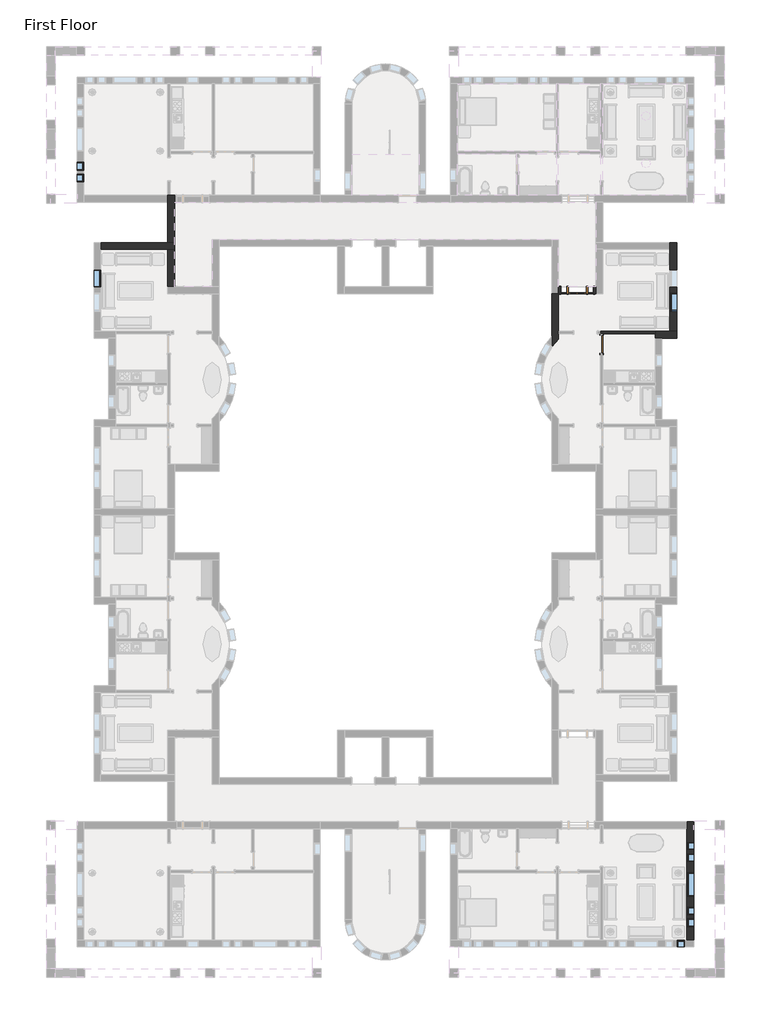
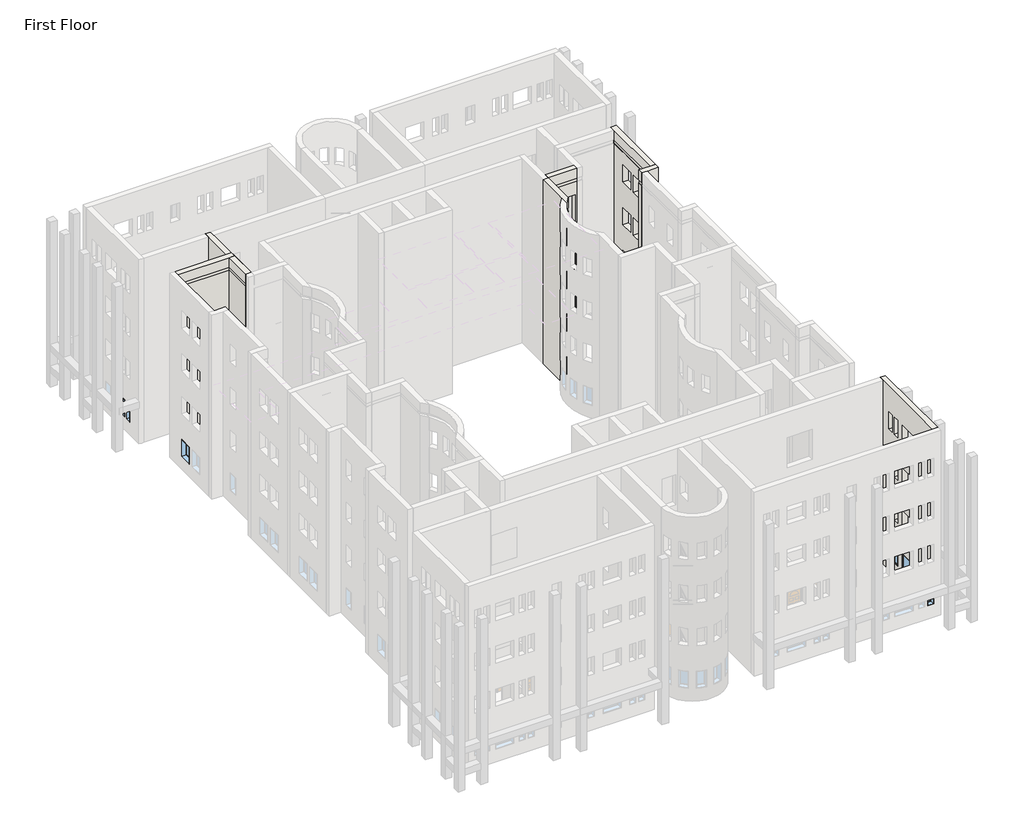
# One storey, part 13 of 24: 10 windows, 9 walls, 2 doors.
"""IFC4 building model written with IfcOpenShell, lengths in millimetres."""

from ifc_helpers import new_model, si_unit, frame, origin, place, context, project, spatial, polyline, circle_curve, outline, extrude, faceted_brep, transform, mapped, element, save
from ifc_brep_helpers import plane_surface, revolved_surface, advanced_brep
from components import door_a3eb833a, door_ffdb1193, window_da97879f, window_d61ef850, window_15c49d37, window_0e2fc6ce, window_d89bf842

model = new_model("IFC4")

# Units and contexts
model_context = context("Model", 3, world=origin())
ifc_project = project(units=[si_unit("LENGTHUNIT", "METRE", prefix="MILLI")], contexts=[model_context])

# Site, building, storey
site = spatial("IfcSite", under=ifc_project)
building = spatial("IfcBuilding", under=site)
storey = spatial("IfcBuildingStorey", under=building, Name="First Floor", Elevation=0.0)

# Doors
placement = place(None, origin())
door_shape = door_a3eb833a(model_context)
element("IfcDoor", 1, ObjectType="Single-Flush : 36\" x 84\"", at=placement, inside=storey, context=model_context, shape_type="MappedRepresentation", body=[
    mapped(door_shape, transform((-3773.4589563, -3157.0558133, 0.0), x_axis=(0.0, 1.0, 0.0), y_axis=(-1.0, 0.0, 0.0), z_axis=(0.0, 0.0, 1.0))),
])
door_2_shape = door_ffdb1193(model_context)
element("IfcDoor", 2, ObjectType="Single-Raised Panel with Sidelights : 36\" x 84\"", at=placement, inside=storey, context=model_context, shape_type="MappedRepresentation", body=[
    mapped(door_2_shape, transform((-5029.1714563, -374.1683133, 0.0), x_axis=(-1.0, 0.0, 0.0), y_axis=(0.0, -1.0, 0.0), z_axis=(0.0, 0.0, 1.0))),
])

# Walls
element("IfcWall", 3, ObjectType="Exterior - Brick on Mtl. Stud", at=placement, inside=storey, context=model_context, shape_type="Brep", body=[
    faceted_brep([(-25807.9589563, -197.9558133, 0.0), (-25807.9589563, 4174.0191867, 0.0), (-25807.9589563, 4526.4441867, 0.0), (-25807.9589563, 4526.4441867, 13106.4), (-25807.9589563, 4174.0191867, 13106.4), (-25807.9589563, -197.9558133, 13106.4), (-26160.3839563, -197.9558133, 0.0), (-26160.3839563, -197.9558133, 13106.4), (-26160.3839563, 4526.4441867, 13106.4), (-26160.3839563, 4526.4441867, 0.0)], [[[0, 1, 2, 3, 4, 5]], [[6, 7, 8, 9]], [[2, 1, 0, 6, 9]], [[5, 4, 3, 8, 7]], [[3, 2, 9, 8]], [[0, 5, 7, 6]]]),
])
element("IfcWall", 4, ObjectType="Exterior - Brick on Mtl. Stud", at=placement, inside=storey, context=model_context, shape_type="Brep", body=[
    faceted_brep([(-5995.9589563, -197.9558133, 13106.4), (-4062.3839563, -197.9558133, 13106.4), (-4062.3839563, -197.9558133, 0.0), (-4190.9714563, -197.9558133, 0.0), (-4190.9714563, -197.9558133, 2133.6), (-5867.3714563, -197.9558133, 2133.6), (-5867.3714563, -197.9558133, 0.0), (-5995.9589563, -197.9558133, 0.0), (-5867.3714563, -197.9558133, 6096.0), (-4190.9714563, -197.9558133, 6096.0), (-4190.9714563, -197.9558133, 8229.6), (-5867.3714563, -197.9558133, 8229.6), (-5867.3714563, -197.9558133, 3048.0), (-4190.9714563, -197.9558133, 3048.0), (-4190.9714563, -197.9558133, 5181.6), (-5867.3714563, -197.9558133, 5181.6), (-5867.3714563, -197.9558133, 9144.0), (-4190.9714563, -197.9558133, 9144.0), (-4190.9714563, -197.9558133, 11277.6), (-5867.3714563, -197.9558133, 11277.6), (-4062.3839563, -550.3808133, 13106.4), (-5995.9589563, -550.3808133, 13106.4), (-5995.9589563, -550.3808133, 12420.6), (-4062.3839563, -550.3808133, 12420.6), (-5867.3714563, -550.3808133, 0.0), (-5867.3714563, -550.3808133, 2133.6), (-4190.9714563, -550.3808133, 2133.6), (-4190.9714563, -550.3808133, 0.0), (-4062.3839563, -550.3808133, 0.0), (-4062.3839563, -550.3808133, 12192.0), (-5995.9589563, -550.3808133, 12192.0), (-5995.9589563, -550.3808133, 0.0), (-4190.9714563, -550.3808133, 6096.0), (-5867.3714563, -550.3808133, 6096.0), (-5867.3714563, -550.3808133, 8229.6), (-4190.9714563, -550.3808133, 8229.6), (-4190.9714563, -550.3808133, 3048.0), (-5867.3714563, -550.3808133, 3048.0), (-5867.3714563, -550.3808133, 5181.6), (-4190.9714563, -550.3808133, 5181.6), (-4190.9714563, -550.3808133, 9144.0), (-5867.3714563, -550.3808133, 9144.0), (-5867.3714563, -550.3808133, 11277.6), (-4190.9714563, -550.3808133, 11277.6), (-4062.3839563, -537.6808133, 12420.6), (-4062.3839563, -537.6808133, 12192.0), (-5995.9589563, -537.6808133, 12192.0), (-5995.9589563, -537.6808133, 12420.6)], [[[0, 1, 2, 3, 4, 5, 6, 7], [8, 9, 10, 11], [12, 13, 14, 15], [16, 17, 18, 19]], [[20, 21, 22, 23]], [[24, 25, 26, 27, 28, 29, 30, 31], [32, 33, 34, 35], [36, 37, 38, 39], [40, 41, 42, 43]], [[2, 28, 27, 3]], [[31, 7, 6, 24]], [[1, 0, 21, 20]], [[2, 1, 20, 23, 44, 45, 29, 28]], [[0, 7, 31, 30, 46, 47, 22, 21]], [[25, 24, 6, 5]], [[26, 25, 5, 4]], [[27, 26, 4, 3]], [[33, 32, 9, 8]], [[34, 33, 8, 11]], [[35, 34, 11, 10]], [[32, 35, 10, 9]], [[37, 36, 13, 12]], [[38, 37, 12, 15]], [[39, 38, 15, 14]], [[36, 39, 14, 13]], [[41, 40, 17, 16]], [[42, 41, 16, 19]], [[43, 42, 19, 18]], [[40, 43, 18, 17]], [[45, 46, 30, 29]], [[47, 44, 23, 22]], [[46, 45, 44, 47]]]),
])
element("IfcWall", 5, ObjectType="Exterior - Brick on Mtl. Stud", at=placement, inside=storey, context=model_context, shape_type="AdvancedBrep", body=[
    advanced_brep(
    [(-6348.3839563, -550.3808133, 0.0), (-6348.3839563, -2741.7830793, 0.0), (-6348.3839563, -3299.6776635, 0.0), (-6348.3839563, -3299.6776635, 914.4), (-6348.3839563, -3250.3894156, 914.4), (-6348.3839563, -3250.3894156, 2133.6), (-6348.3839563, -3299.6776635, 2133.6), (-6348.3839563, -3299.6776635, 3962.4), (-6348.3839563, -3250.3894156, 3962.4), (-6348.3839563, -3250.3894156, 5181.6), (-6348.3839563, -3299.6776635, 5181.6), (-6348.3839563, -3299.6776635, 7010.4), (-6348.3839563, -3250.3894156, 7010.4), (-6348.3839563, -3250.3894156, 8229.6), (-6348.3839563, -3299.6776635, 8229.6), (-6348.3839563, -3299.6776635, 10058.4), (-6348.3839563, -3250.3894156, 10058.4), (-6348.3839563, -3250.3894156, 11277.6), (-6348.3839563, -3299.6776635, 11277.6), (-6348.3839563, -3299.6776635, 12192.0), (-6348.3839563, -2991.1907425, 12192.0), (-6348.3839563, -2991.1907425, 12420.6), (-6348.3839563, -3299.6776635, 12420.6), (-6348.3839563, -3299.6776635, 13106.4), (-6348.3839563, -2741.7830793, 13106.4), (-6348.3839563, -550.3808133, 13106.4), (-5995.9589563, -2885.7839656, 0.0), (-5995.9589563, -2610.9558133, 0.0), (-5995.9589563, -2483.9558133, 0.0), (-5995.9589563, -550.3808133, 0.0), (-5995.9589563, -550.3808133, 12192.0), (-5995.9589563, -2483.9558133, 12192.0), (-5995.9589563, -2610.9558133, 12192.0), (-5995.9589563, -2885.7839656, 12192.0), (-5995.9589563, -550.3808133, 13106.4), (-5995.9589563, -2885.7839656, 13106.4), (-5995.9589563, -2885.7839656, 12420.6), (-5995.9589563, -550.3808133, 12420.6), (-6342.9143656, -3291.8888446, 11277.6), (-6342.9143656, -3291.8888446, 10058.4), (-6342.9143656, -3291.8888446, 8229.6), (-6342.9143656, -3291.8888446, 7010.4), (-6342.9143656, -3291.8888446, 5181.6), (-6342.9143656, -3291.8888446, 3962.4), (-6342.9143656, -3291.8888446, 2133.6), (-6342.9143656, -3291.8888446, 914.4), (-6008.6589563, -550.3808133, 12420.6), (-6008.6589563, -550.3808133, 12192.0), (-6326.3830671, -3262.9631051, 2133.6), (-6326.3830671, -3262.9631051, 914.4), (-6326.3830671, -3262.9631051, 11277.6), (-6326.3830671, -3262.9631051, 10058.4), (-6326.3830671, -3262.9631051, 5181.6), (-6326.3830671, -3262.9631051, 3962.4), (-6326.3830671, -3262.9631051, 8229.6), (-6326.3830671, -3262.9631051, 7010.4), (-6008.6589563, -2642.86294, 12192.0), (-6008.6589563, -2642.86294, 12420.6)],
    [
        (0, 1),
        (1, 2),
        (2, 3),
        (3, 4),
        (4, 5),
        (5, 6),
        (6, 7),
        (7, 8),
        (8, 9),
        (9, 10),
        (10, 11),
        (11, 12),
        (12, 13),
        (13, 14),
        (14, 15),
        (15, 16),
        (16, 17),
        (17, 18),
        (18, 19),
        (19, 20),
        (20, 21),
        (21, 22),
        (22, 23),
        (23, 24),
        (24, 25),
        (25, 0),
        (26, 27),
        (27, 28),
        (28, 29),
        (29, 30),
        (30, 31),
        (31, 32),
        (32, 33),
        (33, 26),
        (34, 35),
        (35, 36),
        (36, 37),
        (37, 34),
        (0, 29),
        (26, 2, circle_curve(frame((-3995.4640713, -4946.1683133, 0.0), z_axis=(0.0, 0.0, 1.0), x_axis=(0.0, 1.0, 0.0)), 2871.7875)),
        (23, 35, circle_curve(frame((-3995.4640713, -4946.1683133, 13106.4), z_axis=(0.0, 0.0, -1.0), x_axis=(0.0, 1.0, 0.0)), 2871.7875)),
        (34, 25),
        (33, 19, circle_curve(frame((-3995.4640713, -4946.1683133, 12192.0), z_axis=(0.0, 0.0, 1.0), x_axis=(0.0, 1.0, 0.0)), 2871.7875)),
        (18, 38, circle_curve(frame((-3995.4640713, -4946.1683133, 11277.6), z_axis=(0.0, 0.0, -1.0), x_axis=(0.0, 1.0, 0.0)), 2871.7875)),
        (38, 39),
        (39, 15, circle_curve(frame((-3995.4640713, -4946.1683133, 10058.4), z_axis=(0.0, 0.0, 1.0), x_axis=(0.0, 1.0, 0.0)), 2871.7875)),
        (14, 40, circle_curve(frame((-3995.4640713, -4946.1683133, 8229.6), z_axis=(0.0, 0.0, -1.0), x_axis=(0.0, 1.0, 0.0)), 2871.7875)),
        (40, 41),
        (41, 11, circle_curve(frame((-3995.4640713, -4946.1683133, 7010.4), z_axis=(0.0, 0.0, 1.0), x_axis=(0.0, 1.0, 0.0)), 2871.7875)),
        (10, 42, circle_curve(frame((-3995.4640713, -4946.1683133, 5181.6), z_axis=(0.0, 0.0, -1.0), x_axis=(0.0, 1.0, 0.0)), 2871.7875)),
        (42, 43),
        (43, 7, circle_curve(frame((-3995.4640713, -4946.1683133, 3962.4), z_axis=(0.0, 0.0, 1.0), x_axis=(0.0, 1.0, 0.0)), 2871.7875)),
        (6, 44, circle_curve(frame((-3995.4640713, -4946.1683133, 2133.6), z_axis=(0.0, 0.0, -1.0), x_axis=(0.0, 1.0, 0.0)), 2871.7875)),
        (44, 45),
        (45, 3, circle_curve(frame((-3995.4640713, -4946.1683133, 914.4), z_axis=(0.0, 0.0, 1.0), x_axis=(0.0, 1.0, 0.0)), 2871.7875)),
        (22, 36, circle_curve(frame((-3995.4640713, -4946.1683133, 12420.6), z_axis=(0.0, 0.0, -1.0), x_axis=(0.0, 1.0, 0.0)), 2871.7875)),
        (37, 46),
        (46, 47),
        (47, 30),
        (48, 49),
        (49, 45),
        (44, 48),
        (49, 4),
        (48, 5),
        (50, 51),
        (51, 39),
        (38, 50),
        (51, 16),
        (50, 17),
        (52, 53),
        (53, 43),
        (42, 52),
        (53, 8),
        (52, 9),
        (54, 55),
        (55, 41),
        (40, 54),
        (55, 12),
        (54, 13),
        (47, 56),
        (56, 20, circle_curve(frame((-3995.4640713, -4946.1683133, 12192.0), z_axis=(0.0, 0.0, 1.0), x_axis=(0.0, -1.0, 0.0)), 3059.1125)),
        (21, 57, circle_curve(frame((-3995.4640713, -4946.1683133, 12420.6), z_axis=(0.0, 0.0, -1.0), x_axis=(0.0, -1.0, 0.0)), 3059.1125)),
        (57, 46),
        (57, 56),
    ],
    [
        plane_surface(frame((-6348.3839563, -374.1683133, 0.0), z_axis=(-1.0, 0.0, 0.0), x_axis=(0.0, -1.0, 0.0))),
        plane_surface(frame((-5995.9589563, -374.1683133, 0.0), z_axis=(1.0, 0.0, 0.0), x_axis=(0.0, 1.0, 0.0))),
        plane_surface(frame((-6348.3839563, -374.1683133, 0.0), z_axis=(0.0, 0.0, -1.0), x_axis=(1.0, 0.0, 0.0))),
        plane_surface(frame((-6348.3839563, -2812.5683133, 13106.4), z_axis=(0.0, 0.0, 1.0), x_axis=(1.0, 0.0, 0.0))),
        revolved_surface(polyline([(-3995.4640713, -2074.3808132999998, 0.0), (-3995.4640713, -2074.3808132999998, 12192.0)]), (-3995.4640713, -4946.1683133, 0.0), (0.0, 0.0, -1.0)),
        revolved_surface(polyline([(-3995.4640713, -2074.3808132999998, 12420.6), (-3995.4640713, -2074.3808132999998, 13106.4)]), (-3995.4640713, -4946.1683133, 0.0), (0.0, 0.0, -1.0)),
        plane_surface(frame((-3886.1714563, -550.3808133, 0.0), z_axis=(0.0, 1.0, 0.0), x_axis=(1.0, 0.0, 0.0))),
        plane_surface(frame((-6628.8611513, -3792.2259591, 2133.6), z_axis=(-0.8682133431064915, 0.49619108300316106, 0.0), x_axis=(0.0, 0.0, -1.0))),
        plane_surface(frame((-6628.8611513, -3792.2259591, 914.4), z_axis=(0.0, 0.0, 1.0), x_axis=(-0.8682133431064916, 0.4961910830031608, 0.0))),
        plane_surface(frame((-6326.3830671, -3262.9631051, 914.4), z_axis=(-0.4961910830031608, -0.8682133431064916, 0.0), x_axis=(-0.8682133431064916, 0.4961910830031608, 0.0))),
        plane_surface(frame((-6326.3830671, -3262.9631051, 2133.6), z_axis=(0.0, 0.0, -1.0), x_axis=(-0.8682133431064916, 0.4961910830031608, 0.0))),
        plane_surface(frame((-6628.8611513, -3792.2259591, 11277.6), z_axis=(-0.8682133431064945, 0.4961910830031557, 0.0), x_axis=(0.0, 0.0, -1.0))),
        plane_surface(frame((-6628.8611513, -3792.2259591, 10058.4), z_axis=(0.0, 0.0, 1.0), x_axis=(-0.8682133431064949, 0.49619108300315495, 0.0))),
        plane_surface(frame((-6326.3830671, -3262.9631051, 10058.4), z_axis=(-0.4961910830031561, -0.8682133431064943, 0.0), x_axis=(-0.8682133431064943, 0.4961910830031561, 0.0))),
        plane_surface(frame((-6326.3830671, -3262.9631051, 11277.6), z_axis=(0.0, 0.0, -1.0000000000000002), x_axis=(-0.8682133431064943, 0.4961910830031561, 0.0))),
        plane_surface(frame((-6628.8611513, -3792.2259591, 5181.6), z_axis=(-0.8682133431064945, 0.4961910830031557, 0.0), x_axis=(0.0, 0.0, -1.0))),
        plane_surface(frame((-6628.8611513, -3792.2259591, 3962.4), z_axis=(0.0, 0.0, 1.0), x_axis=(-0.8682133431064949, 0.49619108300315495, 0.0))),
        plane_surface(frame((-6326.3830671, -3262.9631051, 3962.4), z_axis=(-0.4961910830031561, -0.8682133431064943, 0.0), x_axis=(-0.8682133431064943, 0.4961910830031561, 0.0))),
        plane_surface(frame((-6326.3830671, -3262.9631051, 5181.6), z_axis=(0.0, 0.0, -1.0000000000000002), x_axis=(-0.8682133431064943, 0.4961910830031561, 0.0))),
        plane_surface(frame((-6628.8611513, -3792.2259591, 8229.6), z_axis=(-0.8682133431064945, 0.4961910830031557, 0.0), x_axis=(0.0, 0.0, -1.0))),
        plane_surface(frame((-6628.8611513, -3792.2259591, 7010.4), z_axis=(0.0, 0.0, 1.0), x_axis=(-0.8682133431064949, 0.49619108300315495, 0.0))),
        plane_surface(frame((-6326.3830671, -3262.9631051, 7010.4), z_axis=(-0.4961910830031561, -0.8682133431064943, 0.0), x_axis=(-0.8682133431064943, 0.4961910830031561, 0.0))),
        plane_surface(frame((-6326.3830671, -3262.9631051, 8229.6), z_axis=(0.0, 0.0, -1.0000000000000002), x_axis=(-0.8682133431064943, 0.4961910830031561, 0.0))),
        plane_surface(frame((-239.6839563, -11640.6558133, 12192.0), z_axis=(0.0, 0.0, 1.0), x_axis=(1.0, 0.0, 0.0))),
        plane_surface(frame((-239.6839563, -11640.6558133, 12420.6), z_axis=(0.0, 0.0, -1.0), x_axis=(1.0, 0.0, 0.0))),
        plane_surface(frame((-6008.6589563, -537.6808133, 12192.0), z_axis=(1.0, 0.0, 0.0), x_axis=(0.0, -1.0, 0.0))),
        revolved_surface(polyline([(-3995.4640713, -8005.2808133, 12420.6), (-3995.4640713, -8005.2808133, 12192.0)]), (-3995.4640713, -4946.1683133, 12192.0), (0.0, 0.0, 1.0)),
    ],
    [
        (0, [[1, 2, 3, 4, 5, 6, 7, 8, 9, 10, 11, 12, 13, 14, 15, 16, 17, 18, 19, 20, 21, 22, 23, 24, 25, 26]]),
        (1, [[27, 28, 29, 30, 31, 32, 33, 34]]),
        (1, [[35, 36, 37, 38]]),
        (2, [[-2, -1, 39, -29, -28, -27, 40]]),
        (3, [[-25, -24, 41, -35, 42]]),
        (4, [[-40, -34, 43, -19, 44, 45, 46, -15, 47, 48, 49, -11, 50, 51, 52, -7, 53, 54, 55, -3]]),
        (5, [[-41, -23, 56, -36]]),
        (6, [[-26, -42, -38, 57, 58, 59, -30, -39]]),
        (7, [[60, 61, -54, 62]]),
        (8, [[63, -4, -55, -61]]),
        (9, [[-60, 64, -5, -63]]),
        (10, [[-64, -62, -53, -6]]),
        (11, [[65, 66, -45, 67]]),
        (12, [[68, -16, -46, -66]]),
        (13, [[-65, 69, -17, -68]]),
        (14, [[-69, -67, -44, -18]]),
        (15, [[70, 71, -51, 72]]),
        (16, [[73, -8, -52, -71]]),
        (17, [[-70, 74, -9, -73]]),
        (18, [[-74, -72, -50, -10]]),
        (19, [[75, 76, -48, 77]]),
        (20, [[78, -12, -49, -76]]),
        (21, [[-75, 79, -13, -78]]),
        (22, [[-79, -77, -47, -14]]),
        (23, [[80, 81, -20, -43, -33, -32, -31, -59]]),
        (24, [[82, 83, -57, -37, -56, -22]]),
        (25, [[84, -80, -58, -83]]),
        (26, [[-84, -82, -21, -81]]),
    ],
),
])
element("IfcWall", 6, ObjectType="Exterior - Brick on Mtl. Stud", at=placement, inside=storey, context=model_context, shape_type="Brep", body=[
    faceted_brep([(-1014.3839563, -2836.3808133, 0.0), (-661.9589563, -2836.3808133, 0.0), (100.0410437, -2836.3808133, 0.0), (100.0410437, -2836.3808133, 13106.4), (-661.9589563, -2836.3808133, 13106.4), (-1014.3839563, -2836.3808133, 13106.4), (-1014.3839563, -2836.3808133, 12420.6), (-1001.6839563, -2836.3808133, 12420.6), (-1001.6839563, -2836.3808133, 12192.0), (-1014.3839563, -2836.3808133, 12192.0), (100.0410437, -2483.9558133, 0.0), (-252.3839563, -2483.9558133, 0.0), (-1014.3839563, -2483.9558133, 0.0), (-1014.3839563, -2483.9558133, 3048.0), (-1014.3839563, -2483.9558133, 12192.0), (-252.3839563, -2483.9558133, 12192.0), (-239.6839563, -2483.9558133, 12192.0), (-239.6839563, -2483.9558133, 12420.6), (-252.3839563, -2483.9558133, 12420.6), (-1014.3839563, -2483.9558133, 12420.6), (-1014.3839563, -2483.9558133, 13106.4), (-252.3839563, -2483.9558133, 13106.4), (100.0410437, -2483.9558133, 13106.4), (-1014.3839563, -2610.9558133, 0.0), (-1001.6839563, -2496.6558133, 12192.0), (-239.6839563, -2496.6558133, 12192.0), (-239.6839563, -2496.6558133, 12420.6), (-1001.6839563, -2496.6558133, 12420.6)], [[[0, 1, 2, 3, 4, 5, 6, 7, 8, 9]], [[10, 11, 12, 13, 14, 15, 16, 17, 18, 19, 20, 21, 22]], [[2, 1, 0, 23, 12, 11, 10]], [[5, 4, 3, 22, 21, 20]], [[12, 23, 0, 9, 14, 13]], [[5, 20, 19, 6]], [[3, 2, 10, 22]], [[24, 25, 16, 15, 14, 9, 8]], [[26, 27, 7, 6, 19, 18, 17]], [[27, 24, 8, 7]], [[25, 24, 27, 26]], [[25, 26, 17, 16]]]),
])
element("IfcWall", 7, ObjectType="Exterior - Brick on Mtl. Stud", at=placement, inside=storey, context=model_context, shape_type="Brep", body=[
    faceted_brep([(100.0410437, -2483.9558133, 0.0), (100.0410437, 2088.0441867, 0.0), (100.0410437, 2088.0441867, 13106.4), (100.0410437, -2483.9558133, 13106.4), (100.0410437, -221.7683133, 914.4), (100.0410437, -221.7683133, 2133.6), (100.0410437, 692.6316867, 2133.6), (100.0410437, 692.6316867, 914.4), (100.0410437, -1440.9683133, 914.4), (100.0410437, -1440.9683133, 2133.6), (100.0410437, -526.5683133, 2133.6), (100.0410437, -526.5683133, 914.4), (100.0410437, -221.7683133, 10058.4), (100.0410437, -221.7683133, 11277.6), (100.0410437, 692.6316867, 11277.6), (100.0410437, 692.6316867, 10058.4), (100.0410437, -1440.9683133, 10058.4), (100.0410437, -1440.9683133, 11277.6), (100.0410437, -526.5683133, 11277.6), (100.0410437, -526.5683133, 10058.4), (100.0410437, -221.7683133, 3962.4), (100.0410437, -221.7683133, 5181.6), (100.0410437, 692.6316867, 5181.6), (100.0410437, 692.6316867, 3962.4), (100.0410437, -1440.9683133, 3962.4), (100.0410437, -1440.9683133, 5181.6), (100.0410437, -526.5683133, 5181.6), (100.0410437, -526.5683133, 3962.4), (100.0410437, -221.7683133, 7010.4), (100.0410437, -221.7683133, 8229.6), (100.0410437, 692.6316867, 8229.6), (100.0410437, 692.6316867, 7010.4), (100.0410437, -1440.9683133, 7010.4), (100.0410437, -1440.9683133, 8229.6), (100.0410437, -526.5683133, 8229.6), (100.0410437, -526.5683133, 7010.4), (-252.3839563, 2088.0441867, 0.0), (-252.3839563, 1735.6191867, 0.0), (-252.3839563, -2483.9558133, 0.0), (-252.3839563, -2483.9558133, 12192.0), (-252.3839563, 1735.6191867, 12192.0), (-252.3839563, 1748.3191867, 12192.0), (-252.3839563, 1748.3191867, 12420.6), (-252.3839563, 1735.6191867, 12420.6), (-252.3839563, -2483.9558133, 12420.6), (-252.3839563, -2483.9558133, 13106.4), (-252.3839563, 1735.6191867, 13106.4), (-252.3839563, 2088.0441867, 13106.4), (-252.3839563, -221.7683133, 2133.6), (-252.3839563, -221.7683133, 914.4), (-252.3839563, 692.6316867, 914.4), (-252.3839563, 692.6316867, 2133.6), (-252.3839563, -1440.9683133, 2133.6), (-252.3839563, -1440.9683133, 914.4), (-252.3839563, -526.5683133, 914.4), (-252.3839563, -526.5683133, 2133.6), (-252.3839563, -221.7683133, 11277.6), (-252.3839563, -221.7683133, 10058.4), (-252.3839563, 692.6316867, 10058.4), (-252.3839563, 692.6316867, 11277.6), (-252.3839563, -1440.9683133, 11277.6), (-252.3839563, -1440.9683133, 10058.4), (-252.3839563, -526.5683133, 10058.4), (-252.3839563, -526.5683133, 11277.6), (-252.3839563, -221.7683133, 5181.6), (-252.3839563, -221.7683133, 3962.4), (-252.3839563, 692.6316867, 3962.4), (-252.3839563, 692.6316867, 5181.6), (-252.3839563, -1440.9683133, 5181.6), (-252.3839563, -1440.9683133, 3962.4), (-252.3839563, -526.5683133, 3962.4), (-252.3839563, -526.5683133, 5181.6), (-252.3839563, -221.7683133, 8229.6), (-252.3839563, -221.7683133, 7010.4), (-252.3839563, 692.6316867, 7010.4), (-252.3839563, 692.6316867, 8229.6), (-252.3839563, -1440.9683133, 8229.6), (-252.3839563, -1440.9683133, 7010.4), (-252.3839563, -526.5683133, 7010.4), (-252.3839563, -526.5683133, 8229.6), (-239.6839563, -2483.9558133, 12420.6), (-239.6839563, -2483.9558133, 12192.0), (-239.6839563, 1748.3191867, 12192.0), (-239.6839563, 1748.3191867, 12420.6)], [[[0, 1, 2, 3], [4, 5, 6, 7], [8, 9, 10, 11], [12, 13, 14, 15], [16, 17, 18, 19], [20, 21, 22, 23], [24, 25, 26, 27], [28, 29, 30, 31], [32, 33, 34, 35]], [[36, 37, 38, 39, 40, 41, 42, 43, 44, 45, 46, 47], [48, 49, 50, 51], [52, 53, 54, 55], [56, 57, 58, 59], [60, 61, 62, 63], [64, 65, 66, 67], [68, 69, 70, 71], [72, 73, 74, 75], [76, 77, 78, 79]], [[1, 0, 38, 37, 36]], [[3, 2, 47, 46, 45]], [[2, 1, 36, 47]], [[0, 3, 45, 44, 80, 81, 39, 38]], [[49, 48, 5, 4]], [[50, 49, 4, 7]], [[51, 50, 7, 6]], [[48, 51, 6, 5]], [[53, 52, 9, 8]], [[54, 53, 8, 11]], [[55, 54, 11, 10]], [[52, 55, 10, 9]], [[57, 56, 13, 12]], [[58, 57, 12, 15]], [[59, 58, 15, 14]], [[56, 59, 14, 13]], [[61, 60, 17, 16]], [[62, 61, 16, 19]], [[63, 62, 19, 18]], [[60, 63, 18, 17]], [[65, 64, 21, 20]], [[66, 65, 20, 23]], [[67, 66, 23, 22]], [[64, 67, 22, 21]], [[69, 68, 25, 24]], [[70, 69, 24, 27]], [[71, 70, 27, 26]], [[68, 71, 26, 25]], [[73, 72, 29, 28]], [[74, 73, 28, 31]], [[75, 74, 31, 30]], [[72, 75, 30, 29]], [[77, 76, 33, 32]], [[78, 77, 32, 35]], [[79, 78, 35, 34]], [[76, 79, 34, 33]], [[81, 82, 41, 40, 39]], [[42, 83, 80, 44, 43]], [[83, 82, 81, 80]], [[82, 83, 42, 41]]]),
])
element("IfcWall", 8, ObjectType="Exterior - Brick on Mtl. Stud", at=placement, inside=storey, context=model_context, shape_type="Brep", body=[
    faceted_brep([(-29617.9589563, 1735.6191867, 0.0), (-26160.3839563, 1735.6191867, 0.0), (-25807.9589563, 1735.6191867, 0.0), (-25807.9589563, 1735.6191867, 13106.4), (-26160.3839563, 1735.6191867, 13106.4), (-29617.9589563, 1735.6191867, 13106.4), (-29617.9589563, 1735.6191867, 12420.6), (-26160.3839563, 1735.6191867, 12420.6), (-26147.6839563, 1735.6191867, 12420.6), (-26147.6839563, 1735.6191867, 12192.0), (-26160.3839563, 1735.6191867, 12192.0), (-29617.9589563, 1735.6191867, 12192.0), (-25807.9589563, 2088.0441867, 0.0), (-29617.9589563, 2088.0441867, 0.0), (-29617.9589563, 2088.0441867, 13106.4), (-25807.9589563, 2088.0441867, 13106.4), (-29617.9589563, 1748.3191867, 12192.0), (-29617.9589563, 1748.3191867, 12420.6), (-26147.6839563, 1748.3191867, 12192.0), (-26147.6839563, 1748.3191867, 12420.6)], [[[0, 1, 2, 3, 4, 5, 6, 7, 8, 9, 10, 11]], [[12, 13, 14, 15]], [[2, 1, 0, 13, 12]], [[5, 4, 3, 15, 14]], [[3, 2, 12, 15]], [[5, 14, 13, 0, 11, 16, 17, 6]], [[9, 18, 16, 11, 10]], [[17, 19, 8, 7, 6]], [[18, 19, 17, 16]], [[19, 18, 9, 8]]]),
])
element("IfcWall", 9, ObjectType="Exterior - Brick on Mtl. Stud", at=placement, inside=storey, context=model_context, shape_type="SweptSolid", body=[
    extrude(outline(polyline([(0.0, -26160.3839563), (0.0, -25807.9589563), (13106.4, -25807.9589563), (13106.4, -26160.3839563), (12420.6, -26160.3839563), (12420.6, -26147.6839563), (12192.0, -26147.6839563), (12192.0, -26160.3839563), (0.0, -26160.3839563)])), frame((0.0, -197.9558133, 0.0), z_axis=(0.0, 1.0, 0.0), x_axis=(0.0, 0.0, 1.0)), (0.0, 0.0, 1.0), 1933.575),
])
element("IfcWall", 10, ObjectType="Exterior - Brick on Mtl. Stud", at=placement, inside=storey, context=model_context, shape_type="Brep", body=[
    faceted_brep([(974.7535437, -33878.3558133, 0.0), (974.7535437, -27969.6808133, 0.0), (974.7535437, -27782.3558133, 0.0), (974.7535437, -27782.3558133, 13106.4), (974.7535437, -33878.3558133, 13106.4), (974.7535437, -31616.1683133, 2133.6), (974.7535437, -30396.9683133, 2133.6), (974.7535437, -30396.9683133, 914.4), (974.7535437, -31616.1683133, 914.4), (974.7535437, -33190.9683133, 2133.6), (974.7535437, -32784.5683133, 2133.6), (974.7535437, -32784.5683133, 914.4), (974.7535437, -33190.9683133, 914.4), (974.7535437, -32581.3683133, 2133.6), (974.7535437, -32174.9683133, 2133.6), (974.7535437, -32174.9683133, 914.4), (974.7535437, -32581.3683133, 914.4), (974.7535437, -28822.1683133, 2133.6), (974.7535437, -28822.1683133, 914.4), (974.7535437, -29228.5683133, 914.4), (974.7535437, -29228.5683133, 2133.6), (974.7535437, -29431.7683133, 2133.6), (974.7535437, -29431.7683133, 914.4), (974.7535437, -29838.1683133, 914.4), (974.7535437, -29838.1683133, 2133.6), (974.7535437, -31616.1683133, 11277.6), (974.7535437, -30396.9683133, 11277.6), (974.7535437, -30396.9683133, 10058.4), (974.7535437, -31616.1683133, 10058.4), (974.7535437, -33190.9683133, 11277.6), (974.7535437, -32784.5683133, 11277.6), (974.7535437, -32784.5683133, 10058.4), (974.7535437, -33190.9683133, 10058.4), (974.7535437, -32581.3683133, 11277.6), (974.7535437, -32174.9683133, 11277.6), (974.7535437, -32174.9683133, 10058.4), (974.7535437, -32581.3683133, 10058.4), (974.7535437, -28822.1683133, 11277.6), (974.7535437, -28822.1683133, 10058.4), (974.7535437, -29228.5683133, 10058.4), (974.7535437, -29228.5683133, 11277.6), (974.7535437, -29431.7683133, 11277.6), (974.7535437, -29431.7683133, 10058.4), (974.7535437, -29838.1683133, 10058.4), (974.7535437, -29838.1683133, 11277.6), (974.7535437, -31616.1683133, 5181.6), (974.7535437, -30396.9683133, 5181.6), (974.7535437, -30396.9683133, 3962.4), (974.7535437, -31616.1683133, 3962.4), (974.7535437, -33190.9683133, 5181.6), (974.7535437, -32784.5683133, 5181.6), (974.7535437, -32784.5683133, 3962.4), (974.7535437, -33190.9683133, 3962.4), (974.7535437, -32581.3683133, 5181.6), (974.7535437, -32174.9683133, 5181.6), (974.7535437, -32174.9683133, 3962.4), (974.7535437, -32581.3683133, 3962.4), (974.7535437, -28822.1683133, 5181.6), (974.7535437, -28822.1683133, 3962.4), (974.7535437, -29228.5683133, 3962.4), (974.7535437, -29228.5683133, 5181.6), (974.7535437, -29431.7683133, 5181.6), (974.7535437, -29431.7683133, 3962.4), (974.7535437, -29838.1683133, 3962.4), (974.7535437, -29838.1683133, 5181.6), (974.7535437, -31616.1683133, 8229.6), (974.7535437, -30396.9683133, 8229.6), (974.7535437, -30396.9683133, 7010.4), (974.7535437, -31616.1683133, 7010.4), (974.7535437, -33190.9683133, 8229.6), (974.7535437, -32784.5683133, 8229.6), (974.7535437, -32784.5683133, 7010.4), (974.7535437, -33190.9683133, 7010.4), (974.7535437, -32581.3683133, 8229.6), (974.7535437, -32174.9683133, 8229.6), (974.7535437, -32174.9683133, 7010.4), (974.7535437, -32581.3683133, 7010.4), (974.7535437, -28822.1683133, 8229.6), (974.7535437, -28822.1683133, 7010.4), (974.7535437, -29228.5683133, 7010.4), (974.7535437, -29228.5683133, 8229.6), (974.7535437, -29431.7683133, 8229.6), (974.7535437, -29431.7683133, 7010.4), (974.7535437, -29838.1683133, 7010.4), (974.7535437, -29838.1683133, 8229.6), (622.3285437, -33878.3558133, 0.0), (622.3285437, -33878.3558133, 13106.4), (622.3285437, -28134.7808133, 13106.4), (622.3285437, -27782.3558133, 13106.4), (622.3285437, -27782.3558133, 0.0), (622.3285437, -27969.6808133, 0.0), (622.3285437, -28134.7808133, 0.0), (622.3285437, -31616.1683133, 2133.6), (622.3285437, -31616.1683133, 914.4), (622.3285437, -30396.9683133, 914.4), (622.3285437, -30396.9683133, 2133.6), (622.3285437, -33190.9683133, 2133.6), (622.3285437, -33190.9683133, 914.4), (622.3285437, -32784.5683133, 914.4), (622.3285437, -32784.5683133, 2133.6), (622.3285437, -32581.3683133, 2133.6), (622.3285437, -32581.3683133, 914.4), (622.3285437, -32174.9683133, 914.4), (622.3285437, -32174.9683133, 2133.6), (622.3285437, -28822.1683133, 2133.6), (622.3285437, -29228.5683133, 2133.6), (622.3285437, -29228.5683133, 914.4), (622.3285437, -28822.1683133, 914.4), (622.3285437, -29431.7683133, 2133.6), (622.3285437, -29838.1683133, 2133.6), (622.3285437, -29838.1683133, 914.4), (622.3285437, -29431.7683133, 914.4), (622.3285437, -31616.1683133, 11277.6), (622.3285437, -31616.1683133, 10058.4), (622.3285437, -30396.9683133, 10058.4), (622.3285437, -30396.9683133, 11277.6), (622.3285437, -33190.9683133, 11277.6), (622.3285437, -33190.9683133, 10058.4), (622.3285437, -32784.5683133, 10058.4), (622.3285437, -32784.5683133, 11277.6), (622.3285437, -32581.3683133, 11277.6), (622.3285437, -32581.3683133, 10058.4), (622.3285437, -32174.9683133, 10058.4), (622.3285437, -32174.9683133, 11277.6), (622.3285437, -28822.1683133, 11277.6), (622.3285437, -29228.5683133, 11277.6), (622.3285437, -29228.5683133, 10058.4), (622.3285437, -28822.1683133, 10058.4), (622.3285437, -29431.7683133, 11277.6), (622.3285437, -29838.1683133, 11277.6), (622.3285437, -29838.1683133, 10058.4), (622.3285437, -29431.7683133, 10058.4), (622.3285437, -31616.1683133, 5181.6), (622.3285437, -31616.1683133, 3962.4), (622.3285437, -30396.9683133, 3962.4), (622.3285437, -30396.9683133, 5181.6), (622.3285437, -33190.9683133, 5181.6), (622.3285437, -33190.9683133, 3962.4), (622.3285437, -32784.5683133, 3962.4), (622.3285437, -32784.5683133, 5181.6), (622.3285437, -32581.3683133, 5181.6), (622.3285437, -32581.3683133, 3962.4), (622.3285437, -32174.9683133, 3962.4), (622.3285437, -32174.9683133, 5181.6), (622.3285437, -28822.1683133, 5181.6), (622.3285437, -29228.5683133, 5181.6), (622.3285437, -29228.5683133, 3962.4), (622.3285437, -28822.1683133, 3962.4), (622.3285437, -29431.7683133, 5181.6), (622.3285437, -29838.1683133, 5181.6), (622.3285437, -29838.1683133, 3962.4), (622.3285437, -29431.7683133, 3962.4), (622.3285437, -31616.1683133, 8229.6), (622.3285437, -31616.1683133, 7010.4), (622.3285437, -30396.9683133, 7010.4), (622.3285437, -30396.9683133, 8229.6), (622.3285437, -33190.9683133, 8229.6), (622.3285437, -33190.9683133, 7010.4), (622.3285437, -32784.5683133, 7010.4), (622.3285437, -32784.5683133, 8229.6), (622.3285437, -32581.3683133, 8229.6), (622.3285437, -32581.3683133, 7010.4), (622.3285437, -32174.9683133, 7010.4), (622.3285437, -32174.9683133, 8229.6), (622.3285437, -28822.1683133, 8229.6), (622.3285437, -29228.5683133, 8229.6), (622.3285437, -29228.5683133, 7010.4), (622.3285437, -28822.1683133, 7010.4), (622.3285437, -29431.7683133, 8229.6), (622.3285437, -29838.1683133, 8229.6), (622.3285437, -29838.1683133, 7010.4), (622.3285437, -29431.7683133, 7010.4), (787.4285437, -27782.3558133, 0.0), (787.4285437, -33878.3558133, 0.0), (787.4285437, -27969.6808133, 0.0)], [[[0, 1, 2, 3, 4], [5, 6, 7, 8], [9, 10, 11, 12], [13, 14, 15, 16], [17, 18, 19, 20], [21, 22, 23, 24], [25, 26, 27, 28], [29, 30, 31, 32], [33, 34, 35, 36], [37, 38, 39, 40], [41, 42, 43, 44], [45, 46, 47, 48], [49, 50, 51, 52], [53, 54, 55, 56], [57, 58, 59, 60], [61, 62, 63, 64], [65, 66, 67, 68], [69, 70, 71, 72], [73, 74, 75, 76], [77, 78, 79, 80], [81, 82, 83, 84]], [[85, 86, 87, 88, 89, 90, 91], [92, 93, 94, 95], [96, 97, 98, 99], [100, 101, 102, 103], [104, 105, 106, 107], [108, 109, 110, 111], [112, 113, 114, 115], [116, 117, 118, 119], [120, 121, 122, 123], [124, 125, 126, 127], [128, 129, 130, 131], [132, 133, 134, 135], [136, 137, 138, 139], [140, 141, 142, 143], [144, 145, 146, 147], [148, 149, 150, 151], [152, 153, 154, 155], [156, 157, 158, 159], [160, 161, 162, 163], [164, 165, 166, 167], [168, 169, 170, 171]], [[4, 3, 88, 87, 86]], [[3, 2, 172, 89, 88]], [[0, 4, 86, 85, 173]], [[90, 89, 172, 174]], [[1, 0, 173, 174]], [[2, 1, 174, 172]], [[173, 85, 91, 90, 174]], [[93, 92, 5, 8]], [[94, 93, 8, 7]], [[95, 94, 7, 6]], [[92, 95, 6, 5]], [[97, 96, 9, 12]], [[98, 97, 12, 11]], [[99, 98, 11, 10]], [[96, 99, 10, 9]], [[101, 100, 13, 16]], [[102, 101, 16, 15]], [[103, 102, 15, 14]], [[100, 103, 14, 13]], [[18, 17, 104, 107]], [[19, 18, 107, 106]], [[20, 19, 106, 105]], [[17, 20, 105, 104]], [[22, 21, 108, 111]], [[23, 22, 111, 110]], [[24, 23, 110, 109]], [[21, 24, 109, 108]], [[113, 112, 25, 28]], [[114, 113, 28, 27]], [[115, 114, 27, 26]], [[112, 115, 26, 25]], [[117, 116, 29, 32]], [[118, 117, 32, 31]], [[119, 118, 31, 30]], [[116, 119, 30, 29]], [[121, 120, 33, 36]], [[122, 121, 36, 35]], [[123, 122, 35, 34]], [[120, 123, 34, 33]], [[38, 37, 124, 127]], [[39, 38, 127, 126]], [[40, 39, 126, 125]], [[37, 40, 125, 124]], [[42, 41, 128, 131]], [[43, 42, 131, 130]], [[44, 43, 130, 129]], [[41, 44, 129, 128]], [[133, 132, 45, 48]], [[134, 133, 48, 47]], [[135, 134, 47, 46]], [[132, 135, 46, 45]], [[137, 136, 49, 52]], [[138, 137, 52, 51]], [[139, 138, 51, 50]], [[136, 139, 50, 49]], [[141, 140, 53, 56]], [[142, 141, 56, 55]], [[143, 142, 55, 54]], [[140, 143, 54, 53]], [[58, 57, 144, 147]], [[59, 58, 147, 146]], [[60, 59, 146, 145]], [[57, 60, 145, 144]], [[62, 61, 148, 151]], [[63, 62, 151, 150]], [[64, 63, 150, 149]], [[61, 64, 149, 148]], [[153, 152, 65, 68]], [[154, 153, 68, 67]], [[155, 154, 67, 66]], [[152, 155, 66, 65]], [[157, 156, 69, 72]], [[158, 157, 72, 71]], [[159, 158, 71, 70]], [[156, 159, 70, 69]], [[161, 160, 73, 76]], [[162, 161, 76, 75]], [[163, 162, 75, 74]], [[160, 163, 74, 73]], [[78, 77, 164, 167]], [[79, 78, 167, 166]], [[80, 79, 166, 165]], [[77, 80, 165, 164]], [[82, 81, 168, 171]], [[83, 82, 171, 170]], [[84, 83, 170, 169]], [[81, 84, 169, 168]]]),
])
element("IfcWall", 11, ObjectType="Interior - 5\" Partition (2-hr)", at=placement, inside=storey, context=model_context, shape_type="Brep", body=[
    faceted_brep([(-1014.3839563, -2483.9558133, 0.0), (-3836.9589563, -2483.9558133, 0.0), (-3836.9589563, -2483.9558133, 3048.0), (-1014.3839563, -2483.9558133, 3048.0), (-1014.3839563, -2610.9558133, 0.0), (-1014.3839563, -2610.9558133, 3048.0), (-3709.9589563, -2610.9558133, 3048.0), (-3836.9589563, -2610.9558133, 3048.0), (-3836.9589563, -2610.9558133, 0.0), (-3709.9589563, -2610.9558133, 0.0)], [[[0, 1, 2, 3]], [[4, 5, 6, 7, 8, 9]], [[1, 0, 4, 9, 8]], [[3, 2, 7, 6, 5]], [[2, 1, 8, 7]], [[0, 3, 5, 4]]]),
])

# Windows
window_shape = window_da97879f(model_context)
element("IfcWindow", 12, ObjectType="Fixed : 16\" x 48\"", at=placement, inside=storey, context=model_context, shape_type="MappedRepresentation", body=[
    mapped(window_shape, transform((-30668.8839563, 5378.9316867, 0.0), x_axis=(0.0, -1.0, 0.0), y_axis=(1.0, 0.0, 0.0), z_axis=(0.0, 0.0, 1.0))),
])
element("IfcWindow", 13, ObjectType="Fixed : 16\" x 48\"", at=placement, inside=storey, context=model_context, shape_type="MappedRepresentation", body=[
    mapped(window_shape, transform((-30668.8839563, 5988.5316867, 0.0), x_axis=(0.0, -1.0, 0.0), y_axis=(1.0, 0.0, 0.0), z_axis=(0.0, 0.0, 1.0))),
])
element("IfcWindow", 14, ObjectType="Fixed : 16\" x 48\"", at=placement, inside=storey, context=model_context, shape_type="MappedRepresentation", body=[
    mapped(window_shape, transform((354.0410437, -34054.5683133, 0.0), x_axis=(1.0, 0.0, 0.0), y_axis=(0.0, 1.0, 0.0), z_axis=(0.0, 0.0, 1.0))),
])
element("IfcWindow", 15, ObjectType="Fixed : 16\" x 48\"", at=placement, inside=storey, context=model_context, shape_type="MappedRepresentation", body=[
    mapped(window_shape, transform((798.5410437, -28987.2683133, 0.0), x_axis=(0.0, 1.0, 0.0), y_axis=(-1.0, 0.0, 0.0), z_axis=(0.0, 0.0, 1.0))),
])
element("IfcWindow", 16, ObjectType="Fixed : 16\" x 48\"", at=placement, inside=storey, context=model_context, shape_type="MappedRepresentation", body=[
    mapped(window_shape, transform((798.5410437, -29596.8683133, 0.0), x_axis=(0.0, 1.0, 0.0), y_axis=(-1.0, 0.0, 0.0), z_axis=(0.0, 0.0, 1.0))),
])
window_2_shape = window_d61ef850(model_context)
element("IfcWindow", 17, ObjectType="Fixed : 16\" x 48\"", at=placement, inside=storey, context=model_context, shape_type="MappedRepresentation", body=[
    mapped(window_2_shape, transform((798.5410437, -33025.8683133, 0.0), x_axis=(0.0, -1.0, 0.0), y_axis=(1.0, 0.0, 0.0), z_axis=(0.0, 0.0, 1.0))),
])
element("IfcWindow", 18, ObjectType="Fixed : 16\" x 48\"", at=placement, inside=storey, context=model_context, shape_type="MappedRepresentation", body=[
    mapped(window_2_shape, transform((798.5410437, -32416.2683133, 0.0), x_axis=(0.0, -1.0, 0.0), y_axis=(1.0, 0.0, 0.0), z_axis=(0.0, 0.0, 1.0))),
])
window_3_shape = window_15c49d37(model_context)
element("IfcWindow", 19, ObjectType="Fixed : 36\" x 48\"", at=placement, inside=storey, context=model_context, shape_type="MappedRepresentation", body=[
    mapped(window_3_shape, transform((-29794.1714563, 197.3316867, 0.0), x_axis=(0.0, -1.0, 0.0), y_axis=(1.0, 0.0, 0.0), z_axis=(0.0, 0.0, 1.0))),
])
window_4_shape = window_0e2fc6ce(model_context)
element("IfcWindow", 20, ObjectType="Fixed : 36\" x 48\"", at=placement, inside=storey, context=model_context, shape_type="MappedRepresentation", body=[
    mapped(window_4_shape, transform((-76.1714563, -1021.8683133, 0.0), x_axis=(0.0, -1.0, 0.0), y_axis=(1.0, 0.0, 0.0), z_axis=(0.0, 0.0, 1.0))),
])
window_5_shape = window_d89bf842(model_context)
element("IfcWindow", 21, ObjectType="Fixed : 48\" x 48\"", at=placement, inside=storey, context=model_context, shape_type="MappedRepresentation", body=[
    mapped(window_5_shape, transform((798.5410437, -31044.6683133, 0.0), x_axis=(0.0, -1.0, 0.0), y_axis=(1.0, 0.0, 0.0), z_axis=(0.0, 0.0, 1.0))),
])

save(model, "model.ifc")
